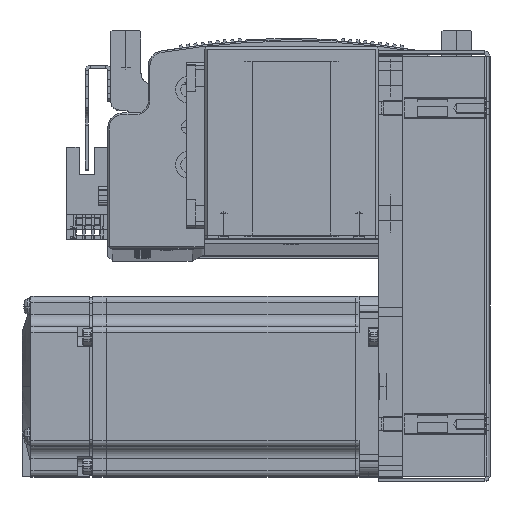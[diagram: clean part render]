
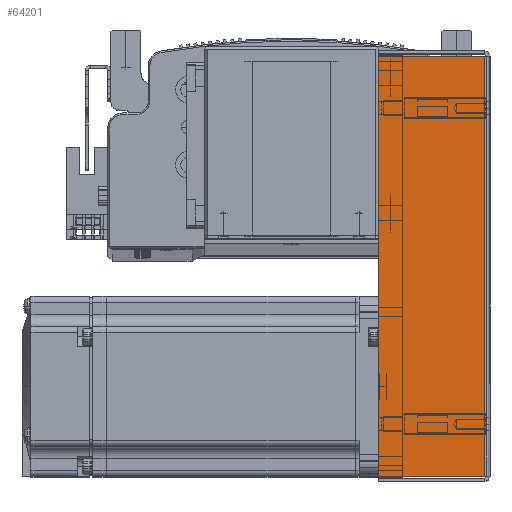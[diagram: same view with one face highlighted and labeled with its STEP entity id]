
A CAD part, top view. The second image highlights one B-rep face of the part: STEP entity #64201.
In plain terms, the highlighted planar face has unit normal (0, 0, 1).
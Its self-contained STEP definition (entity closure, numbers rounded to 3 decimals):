
#27108 = VERTEX_POINT ( 'NONE', #40084 ) ;
#27111 = VERTEX_POINT ( 'NONE', #40072 ) ;
#27112 = VERTEX_POINT ( 'NONE', #40089 ) ;
#27122 = VERTEX_POINT ( 'NONE', #40053 ) ;
#34750 = EDGE_CURVE ( 'NONE', #27111, #27112, #36687, .T. ) ;
#34788 = EDGE_CURVE ( 'NONE', #27112, #27108, #36731, .T. ) ;
#34793 = EDGE_CURVE ( 'NONE', #27111, #27122, #36779, .T. ) ;
#34822 = EDGE_CURVE ( 'NONE', #27122, #27108, #36831, .T. ) ;
#34996 = CARTESIAN_POINT ( 'NONE',  ( 69.793, 0., 33.5 ) ) ;
#35003 = DIRECTION ( 'NONE',  ( 0., 1., 0. ) ) ;
#35026 = DIRECTION ( 'NONE',  ( 0., 1., 0. ) ) ;
#35028 = CARTESIAN_POINT ( 'NONE',  ( -69.793, 0., 33.5 ) ) ;
#35107 = CARTESIAN_POINT ( 'NONE',  ( 0., 36., 33.5 ) ) ;
#35126 = DIRECTION ( 'NONE',  ( -1., 0., 0. ) ) ;
#36668 = VECTOR ( 'NONE', #95855, 1000. ) ;
#36687 = LINE ( 'NONE', #95812, #36668 ) ;
#36731 = LINE ( 'NONE', #35028, #36751 ) ;
#36742 = VECTOR ( 'NONE', #35003, 1000. ) ;
#36751 = VECTOR ( 'NONE', #35026, 1000. ) ;
#36779 = LINE ( 'NONE', #34996, #36742 ) ;
#36831 = LINE ( 'NONE', #35107, #36843 ) ;
#36843 = VECTOR ( 'NONE', #35126, 1000. ) ;
#38325 = EDGE_LOOP ( 'NONE', ( #50797, #50776, #50771, #50787 ) ) ;
#40053 = CARTESIAN_POINT ( 'NONE',  ( 69.793, 36., 33.5 ) ) ;
#40072 = CARTESIAN_POINT ( 'NONE',  ( 69.793, 0.737, 33.5 ) ) ;
#40084 = CARTESIAN_POINT ( 'NONE',  ( -69.793, 36., 33.5 ) ) ;
#40089 = CARTESIAN_POINT ( 'NONE',  ( -69.793, 0.737, 33.5 ) ) ;
#49002 = FACE_OUTER_BOUND ( 'NONE', #38325, .T. ) ;
#50771 = ORIENTED_EDGE ( 'NONE', *, *, #34822, .T. ) ;
#50776 = ORIENTED_EDGE ( 'NONE', *, *, #34793, .T. ) ;
#50787 = ORIENTED_EDGE ( 'NONE', *, *, #34788, .F. ) ;
#50797 = ORIENTED_EDGE ( 'NONE', *, *, #34750, .F. ) ;
#64201 = ADVANCED_FACE ( 'NONE', ( #49002 ), #75317, .F. ) ;
#75303 = DIRECTION ( 'NONE',  ( -1., 0., 0. ) ) ;
#75317 = PLANE ( 'NONE',  #82664 ) ;
#75352 = DIRECTION ( 'NONE',  ( 0., 0., -1. ) ) ;
#75394 = CARTESIAN_POINT ( 'NONE',  ( 0., 0., 33.5 ) ) ;
#82664 = AXIS2_PLACEMENT_3D ( 'NONE', #75394, #75352, #75303 ) ;
#95812 = CARTESIAN_POINT ( 'NONE',  ( -71.5, 0.737, 33.5 ) ) ;
#95855 = DIRECTION ( 'NONE',  ( -1., 0., 0. ) ) ;
